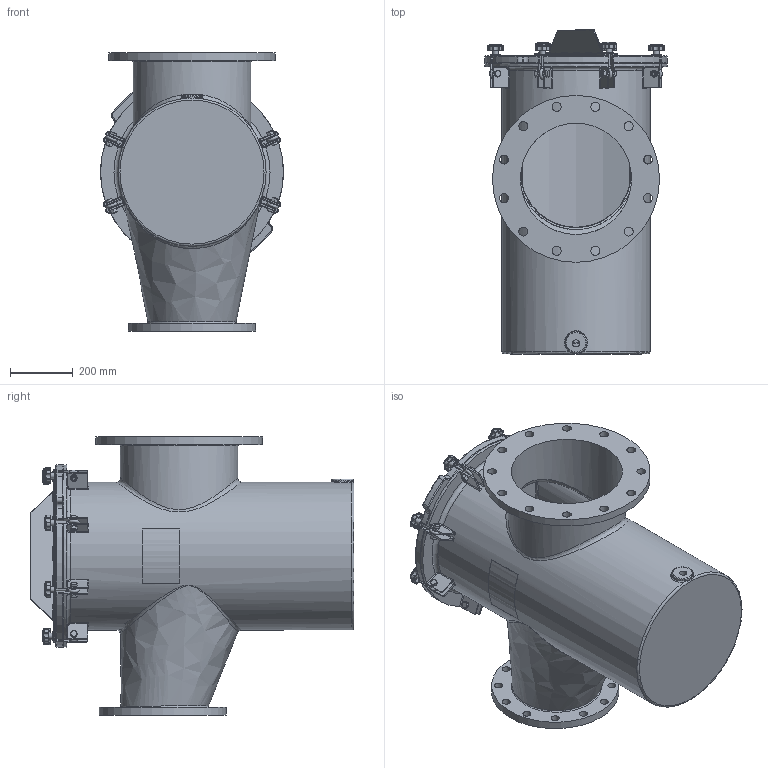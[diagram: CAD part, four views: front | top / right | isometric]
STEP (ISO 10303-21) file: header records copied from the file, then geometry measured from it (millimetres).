
FILE_DESCRIPTION(/* description */ ('STRAINER BODY'),/* implementation_level */ '2;1');
FILE_NAME(/* name */ 'Z:\Output\Strainers\11-14-2016\CAD\150NBFG41ER1.stp',/* time_stamp */ '2016-11-16T20:15:06+06:00',/* author */ ('20093558'),/* organization */ (''),/* preprocessor_version */ 'ST-DEVELOPER v16.1',/* originating_system */ 'Autodesk Inventor 2016',/* authorisation */ '');
FILE_SCHEMA (('AUTOMOTIVE_DESIGN { 1 0 10303 214 3 1 1 }'));
Length unit declared in the file: inch
Products named in the file (24): NBFG41EBODYR1; 150NBCVR18R2; 150NBGSK18R1; Perforated Basket 18in; Bride (Ring) 18in; Baffle 18in; Handle 18in; Bottom Strainer 18in; NBBSK14T316; BRACESTRCVR18_Welds; BRACE (BASE) FOR 18 BODY; BRACE (PROJ) FOR 18 BODY; Bumper; BRACESTRCVR18; Nut- 1_2  UNC; Bolt-1_2 x 1 1_2  UNC; EyeBolt; Washer; Knob M10; Securing Assembly For FG  with Brace; Securing Assembly For FG without Brace; Label for 18.625 inch (Right); Label for 18.625 inch (Left); Guardian FG Reducing H&L Strainer (Inch)
Assembly tree (39 placements, depth 3):
  Guardian FG Reducing H&L Strainer (Inch)
    NBFG41EBODYR1
    150NBCVR18R2
    150NBGSK18R1
    NBBSK14T316
      Perforated Basket 18in
      Bride (Ring) 18in
      Baffle 18in
      Handle 18in
      Bottom Strainer 18in
    BRACESTRCVR18
      BRACESTRCVR18_Welds
      BRACE (BASE) FOR 18 BODY
      BRACE (PROJ) FOR 18 BODY
      Bumper  x6
    Securing Assembly For FG  with Brace  x2
      Nut- 1_2  UNC
      Bolt-1_2 x 1 1_2  UNC
      EyeBolt
      Washer
      Knob M10
    Securing Assembly For FG without Brace  x6
      Nut- 1_2  UNC
      Bolt-1_2 x 1 1_2  UNC
      EyeBolt
      Washer
      Knob M10
    Label for 18.625 inch (Right)
    Label for 18.625 inch (Left)
Bounding box: 584.2 x 1035.05 x 889 mm (x, y, z)
Volume: 30304275.3 mm3; surface area: 7533086.4 mm2
Topology: 67 solids, 67 shells, 1831 faces, 4184 edges, 2476 vertices
Faces by surface type: cylinder 672, plane 511, cone 184, torus 168, sphere 158, bspline 138
Full cylindrical faces by diameter (mm): 3.175 x11, 6.35 x2, 8.382 x8, 9.525 x16, 10.592 x8, 12.7 x8, 15.875 x16, 19 x16, 19.05 x8, 22.809 x1, 25.4 x12, 28.575 x12, 31.75 x8, 68.263 x1, 352.425 x2, 355.6 x2, 358.14 x1, 374.65 x1, 406.4 x1, 457.2 x3, 463.55 x1, 473.075 x1, 520.7 x1, 527.05 x1, 533.4 x1
Entity records: 35678 total; most frequent: CARTESIAN_POINT 12233, DIRECTION 4838, ORIENTED_EDGE 4434, EDGE_CURVE 2217, AXIS2_PLACEMENT_3D 1979, VERTEX_POINT 1393, EDGE_LOOP 1206, ADVANCED_FACE 981
